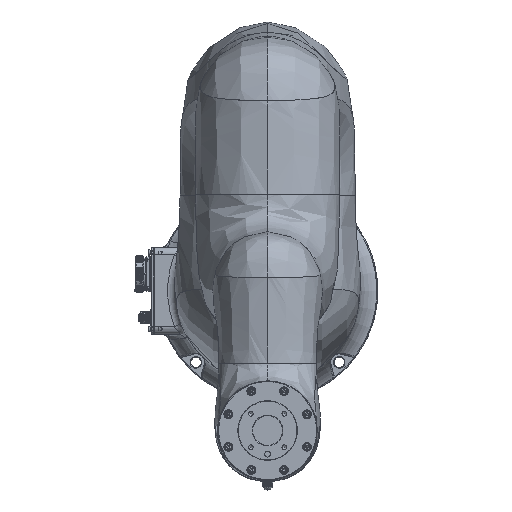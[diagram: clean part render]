
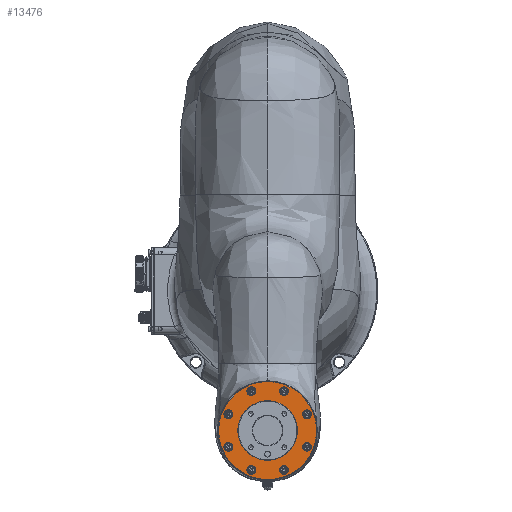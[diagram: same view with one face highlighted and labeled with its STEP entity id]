
A CAD part, top view. The second image highlights one B-rep face of the part: STEP entity #13476.
In plain terms, the highlighted planar face has unit normal (0, 0, 1).
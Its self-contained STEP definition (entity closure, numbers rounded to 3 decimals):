
#2353=PLANE('',#48194);
#3318=FACE_BOUND('',#18795,.T.);
#3319=FACE_BOUND('',#18796,.T.);
#3320=FACE_BOUND('',#18797,.T.);
#3321=FACE_BOUND('',#18798,.T.);
#3322=FACE_BOUND('',#18799,.T.);
#3323=FACE_BOUND('',#18800,.T.);
#3324=FACE_BOUND('',#18801,.T.);
#3325=FACE_BOUND('',#18802,.T.);
#3326=FACE_BOUND('',#18803,.T.);
#3327=FACE_BOUND('',#18804,.T.);
#5439=CIRCLE('',#48184,51.8);
#5440=CIRCLE('',#48185,4.64);
#5441=CIRCLE('',#48186,4.64);
#5442=CIRCLE('',#48187,4.64);
#5443=CIRCLE('',#48188,4.64);
#5444=CIRCLE('',#48189,4.64);
#5445=CIRCLE('',#48190,4.64);
#5446=CIRCLE('',#48191,4.64);
#5447=CIRCLE('',#48192,4.64);
#5448=CIRCLE('',#48193,31.5);
#13476=ADVANCED_FACE('',(#3318,#3319,#3320,#3321,#3322,#3323,#3324,#3325,
#3326,#3327),#2353,.T.);
#18795=EDGE_LOOP('',(#29820));
#18796=EDGE_LOOP('',(#29821));
#18797=EDGE_LOOP('',(#29822));
#18798=EDGE_LOOP('',(#29823));
#18799=EDGE_LOOP('',(#29824));
#18800=EDGE_LOOP('',(#29825));
#18801=EDGE_LOOP('',(#29826));
#18802=EDGE_LOOP('',(#29827));
#18803=EDGE_LOOP('',(#29828));
#18804=EDGE_LOOP('',(#29829));
#29820=ORIENTED_EDGE('',*,*,#41681,.T.);
#29821=ORIENTED_EDGE('',*,*,#41682,.T.);
#29822=ORIENTED_EDGE('',*,*,#41683,.T.);
#29823=ORIENTED_EDGE('',*,*,#41684,.T.);
#29824=ORIENTED_EDGE('',*,*,#41685,.T.);
#29825=ORIENTED_EDGE('',*,*,#41686,.T.);
#29826=ORIENTED_EDGE('',*,*,#41687,.T.);
#29827=ORIENTED_EDGE('',*,*,#41688,.T.);
#29828=ORIENTED_EDGE('',*,*,#41689,.T.);
#29829=ORIENTED_EDGE('',*,*,#41690,.T.);
#35685=VERTEX_POINT('',#98369);
#35686=VERTEX_POINT('',#98371);
#35687=VERTEX_POINT('',#98373);
#35688=VERTEX_POINT('',#98375);
#35689=VERTEX_POINT('',#98377);
#35690=VERTEX_POINT('',#98379);
#35691=VERTEX_POINT('',#98381);
#35692=VERTEX_POINT('',#98383);
#35693=VERTEX_POINT('',#98385);
#35694=VERTEX_POINT('',#98387);
#41681=EDGE_CURVE('',#35685,#35685,#5439,.T.);
#41682=EDGE_CURVE('',#35686,#35686,#5440,.T.);
#41683=EDGE_CURVE('',#35687,#35687,#5441,.T.);
#41684=EDGE_CURVE('',#35688,#35688,#5442,.T.);
#41685=EDGE_CURVE('',#35689,#35689,#5443,.T.);
#41686=EDGE_CURVE('',#35690,#35690,#5444,.T.);
#41687=EDGE_CURVE('',#35691,#35691,#5445,.T.);
#41688=EDGE_CURVE('',#35692,#35692,#5446,.T.);
#41689=EDGE_CURVE('',#35693,#35693,#5447,.T.);
#41690=EDGE_CURVE('',#35694,#35694,#5448,.T.);
#48184=AXIS2_PLACEMENT_3D('',#98368,#58551,#58552);
#48185=AXIS2_PLACEMENT_3D('',#98370,#58553,#58554);
#48186=AXIS2_PLACEMENT_3D('',#98372,#58555,#58556);
#48187=AXIS2_PLACEMENT_3D('',#98374,#58557,#58558);
#48188=AXIS2_PLACEMENT_3D('',#98376,#58559,#58560);
#48189=AXIS2_PLACEMENT_3D('',#98378,#58561,#58562);
#48190=AXIS2_PLACEMENT_3D('',#98380,#58563,#58564);
#48191=AXIS2_PLACEMENT_3D('',#98382,#58565,#58566);
#48192=AXIS2_PLACEMENT_3D('',#98384,#58567,#58568);
#48193=AXIS2_PLACEMENT_3D('',#98386,#58569,#58570);
#48194=AXIS2_PLACEMENT_3D('',#98388,#58571,#58572);
#58551=DIRECTION('',(0.,0.,1.));
#58552=DIRECTION('',(1.,0.,0.));
#58553=DIRECTION('',(0.,0.,-1.));
#58554=DIRECTION('',(1.,0.,0.));
#58555=DIRECTION('',(0.,0.,-1.));
#58556=DIRECTION('',(1.,0.,0.));
#58557=DIRECTION('',(0.,0.,-1.));
#58558=DIRECTION('',(1.,0.,0.));
#58559=DIRECTION('',(0.,0.,-1.));
#58560=DIRECTION('',(1.,0.,0.));
#58561=DIRECTION('',(0.,0.,-1.));
#58562=DIRECTION('',(1.,0.,0.));
#58563=DIRECTION('',(0.,0.,-1.));
#58564=DIRECTION('',(1.,0.,0.));
#58565=DIRECTION('',(0.,0.,-1.));
#58566=DIRECTION('',(1.,0.,0.));
#58567=DIRECTION('',(0.,0.,-1.));
#58568=DIRECTION('',(1.,0.,0.));
#58569=DIRECTION('',(0.,0.,-1.));
#58570=DIRECTION('',(-1.,0.,0.));
#58571=DIRECTION('',(0.,0.,1.));
#58572=DIRECTION('',(-1.,0.,0.));
#98368=CARTESIAN_POINT('',(0.,0.,
-6.5));
#98369=CARTESIAN_POINT('',(51.8,0.,-6.5));
#98370=CARTESIAN_POINT('',(41.575,17.221,-6.5));
#98371=CARTESIAN_POINT('',(46.214,17.221,-6.5));
#98372=CARTESIAN_POINT('',(17.221,41.575,-6.5));
#98373=CARTESIAN_POINT('',(21.86,41.575,-6.5));
#98374=CARTESIAN_POINT('',(-17.221,41.575,-6.5));
#98375=CARTESIAN_POINT('',(-12.581,41.575,-6.5));
#98376=CARTESIAN_POINT('',(-41.575,17.221,-6.5));
#98377=CARTESIAN_POINT('',(-36.935,17.221,-6.5));
#98378=CARTESIAN_POINT('',(-41.575,-17.221,-6.5));
#98379=CARTESIAN_POINT('',(-36.935,-17.221,-6.5));
#98380=CARTESIAN_POINT('',(-17.221,-41.575,-6.5));
#98381=CARTESIAN_POINT('',(-12.581,-41.575,-6.5));
#98382=CARTESIAN_POINT('',(17.221,-41.575,-6.5));
#98383=CARTESIAN_POINT('',(21.86,-41.575,-6.5));
#98384=CARTESIAN_POINT('',(41.575,-17.221,-6.5));
#98385=CARTESIAN_POINT('',(46.214,-17.221,-6.5));
#98386=CARTESIAN_POINT('',(0.,0.,
-6.5));
#98387=CARTESIAN_POINT('',(-31.5,0.,-6.5));
#98388=CARTESIAN_POINT('',(0.,52.3,-6.5));
